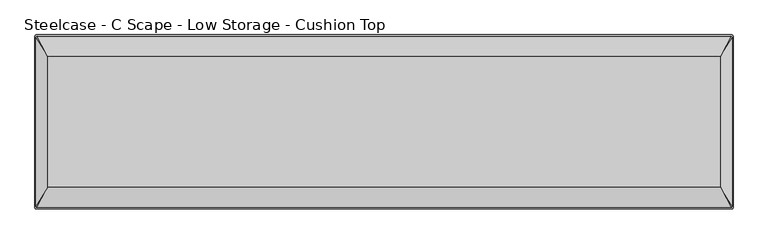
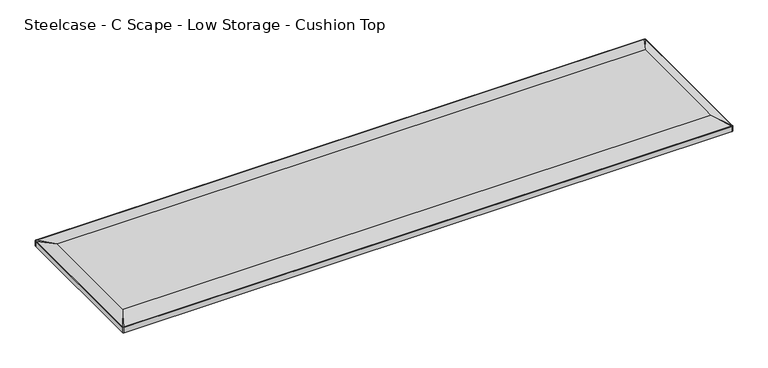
"""IFC4 building model written with IfcOpenShell, lengths in millimetres: furniture geometry, Steelcase - C Scape - Low Storage - Cushion Top : 12D x 48W."""

from ifc_helpers import new_model, si_unit, point, frame, frame_2d, origin, place, context, project, spatial, polyline, circle_curve, trimmed, segment, composite_curve, outline, extrude, source, transform, mapped, element, save
from ifc_brep_helpers import plane_surface, spline_surface, advanced_brep


def steelcase_c_scape_low_storage_cushion_top_af3520f8(model_context):
    return source(origin(), model_context, "Body", "SolidModel", [
        extrude(outline(composite_curve([segment(trimmed(circle_curve(frame_2d((1216.66, 149.86)), 2.54), [point((1216.66, 152.4))], [point((1219.2, 149.86))], False, "CARTESIAN"), True, "CONTINUOUS"), segment(polyline([(1219.2, 149.86), (1219.2, -149.86)]), True, "CONTINUOUS"), segment(trimmed(circle_curve(frame_2d((1216.66, -149.86)), 2.54), [point((1219.2, -149.86))], [point((1216.66, -152.4))], False, "CARTESIAN"), True, "CONTINUOUS"), segment(polyline([(1216.66, -152.4), (2.54, -152.4)]), True, "CONTINUOUS"), segment(trimmed(circle_curve(frame_2d((2.54, -149.86)), 2.54), [point((2.54, -152.4))], [point((0.0, -149.86))], False, "CARTESIAN"), True, "CONTINUOUS"), segment(polyline([(0.0, -149.86), (0.0, 149.86)]), True, "CONTINUOUS"), segment(trimmed(circle_curve(frame_2d((2.54, 149.86)), 2.54), [point((0.0, 149.86))], [point((2.54, 152.4))], False, "CARTESIAN"), True, "CONTINUOUS"), segment(polyline([(2.54, 152.4), (1216.66, 152.4)]), True, "CONTINUOUS")], self_intersect=False)), frame((0.0, 0.0, 599.44), z_axis=(0.0, 0.0, 1.0), x_axis=(1.0, 0.0, 0.0)), (0.0, 0.0, 1.0), 10.9220174),
        advanced_brep(
        [(1216.66, 152.4, 610.3620174), (1219.2, 149.86, 610.3620174), (1219.2, -149.86, 610.3620174), (1216.66, -152.4, 610.3620174), (2.54, -152.4, 610.3620174), (0.0, -149.86, 610.3620174), (0.0, 149.86, 610.3620174), (2.54, 152.4, 610.3620174), (1197.102, 114.0206021, 618.4900097), (22.0725989, 114.0206021, 618.4900097), (22.0725989, -114.0206021, 618.4900097), (1197.102, -114.0206021, 618.4900097)],
        [
            (0, 1, circle_curve(frame((1216.66, 149.86, 610.3620174), z_axis=(0.0, 0.0, -1.0), x_axis=(1.0, 0.0, 0.0)), 2.54)),
            (1, 2),
            (2, 3, circle_curve(frame((1216.66, -149.86, 610.3620174), z_axis=(0.0, 0.0, -1.0), x_axis=(1.0, 0.0, 0.0)), 2.54)),
            (3, 4),
            (4, 5, circle_curve(frame((2.54, -149.86, 610.3620174), z_axis=(0.0, 0.0, -1.0), x_axis=(1.0, 0.0, 0.0)), 2.54)),
            (5, 6),
            (6, 7, circle_curve(frame((2.54, 149.86, 610.3620174), z_axis=(0.0, 0.0, -1.0), x_axis=(1.0, 0.0, 0.0)), 2.54)),
            (7, 0),
            (8, 9),
            (9, 10),
            (10, 11),
            (11, 8),
            (8, 0),
            (7, 9),
            (9, 6),
            (5, 10),
            (10, 4),
            (3, 11),
            (11, 2),
            (1, 8),
        ],
        [
            plane_surface(frame((609.6, 0.0, 610.3620174), z_axis=(0.0, 0.0, -1.0), x_axis=(-1.0, 0.0, 0.0))),
            plane_surface(frame((609.5872995, 0.0, 618.4900097), z_axis=(0.0, 0.0, 1.0), x_axis=(-1.0, 0.0, 0.0))),
            plane_surface(frame((609.5872995, 114.0206021, 618.4900097), z_axis=(0.0, 0.20718484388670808, 0.9783018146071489), x_axis=(1.0, 0.0, 0.0))),
            plane_surface(frame((22.0725989, 0.0, 618.4900097), z_axis=(-0.3455549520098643, 0.0, 0.9383985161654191), x_axis=(0.0, 1.0, 0.0))),
            plane_surface(frame((609.5872995, -114.0206021, 618.4900097), z_axis=(0.0, -0.20718484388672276, 0.9783018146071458), x_axis=(-1.0, 0.0, 0.0))),
            plane_surface(frame((1197.102, 0.0, 618.4900097), z_axis=(0.345205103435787, 0.0, 0.9385272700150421), x_axis=(0.0, -1.0, 0.0))),
            spline_surface(2, 1, [[(1197.102, 114.0206021, 618.4900097), (1216.66, 152.4, 610.3620174)], [(1197.102, 114.0206021, 618.4900097), (1219.2, 152.40000000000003, 610.3620174)], [(1197.102, 114.0206021, 618.4900097), (1219.2, 149.86, 610.3620174)]], [3, 3], [2, 2], [0.0, 1.0], [0.0, 1.0], weights=[[1.0, 1.0], [0.7071067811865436, 0.7071067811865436], [1.0, 1.0]]),
            spline_surface(2, 1, [[(1197.102, -114.0206021, 618.4900097), (1219.2, -149.86, 610.3620174)], [(1197.102, -114.0206021, 618.4900097), (1219.2, -152.39999999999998, 610.3620174)], [(1197.102, -114.0206021, 618.4900097), (1216.66, -152.4, 610.3620174)]], [3, 3], [2, 2], [0.0, 1.0], [0.0, 1.0], weights=[[1.0, 1.0], [0.7071067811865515, 0.7071067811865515], [1.0, 1.0]]),
            spline_surface(2, 1, [[(22.0725989, -114.0206021, 618.4900097), (2.54, -152.4, 610.3620174)], [(22.0725989, -114.0206021, 618.4900097), (7.993605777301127e-15, -152.4, 610.3620174)], [(22.0725989, -114.0206021, 618.4900097), (0.0, -149.86, 610.3620174)]], [3, 3], [2, 2], [0.0, 1.0], [0.0, 1.0], weights=[[1.0, 1.0], [0.7071067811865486, 0.7071067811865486], [1.0, 1.0]]),
            spline_surface(2, 1, [[(22.0725989, 114.0206021, 618.4900097), (0.0, 149.86, 610.3620174)], [(22.0725989, 114.0206021, 618.4900097), (-8.43769498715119e-15, 152.4, 610.3620174)], [(22.0725989, 114.0206021, 618.4900097), (2.54, 152.4, 610.3620174)]], [3, 3], [2, 2], [0.0, 1.0], [0.0, 1.0], weights=[[1.0, 1.0], [0.7071067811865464, 0.7071067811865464], [1.0, 1.0]]),
        ],
        [
            (0, [[1, 2, 3, 4, 5, 6, 7, 8]]),
            (1, [[9, 10, 11, 12]]),
            (2, [[-9, 13, -8, 14]]),
            (3, [[-10, 15, -6, 16]]),
            (4, [[-11, 17, -4, 18]]),
            (5, [[-12, 19, -2, 20]]),
            (6, [[-1, -13, -20]]),
            (7, [[-3, -19, -18]]),
            (8, [[-5, -17, -16]]),
            (9, [[-7, -15, -14]]),
        ],
    ),
    ])


if __name__ == "__main__":
    model = new_model("IFC4")
    model_context = context("Model", 3, world=origin())
    ifc_project = project(units=[si_unit("LENGTHUNIT", "METRE", prefix="MILLI")], contexts=[model_context])
    site = spatial("IfcSite", under=ifc_project)
    building = spatial("IfcBuilding", under=site)
    placement = place(None, origin())
    steelcase_c_scape_low_storage_cushion_top_shape = steelcase_c_scape_low_storage_cushion_top_af3520f8(model_context)
    element("IfcFurniture", 1, ObjectType="Steelcase - C Scape - Low Storage - Cushion Top : 12D x 48W", at=placement, inside=building, context=model_context, shape_type="MappedRepresentation", body=[
        mapped(steelcase_c_scape_low_storage_cushion_top_shape, transform((0.0, 0.0, 0.0), x_axis=(1.0, 0.0, 0.0), y_axis=(0.0, 1.0, 0.0), z_axis=(0.0, 0.0, 1.0))),
    ])
    save(model, "model.ifc")
